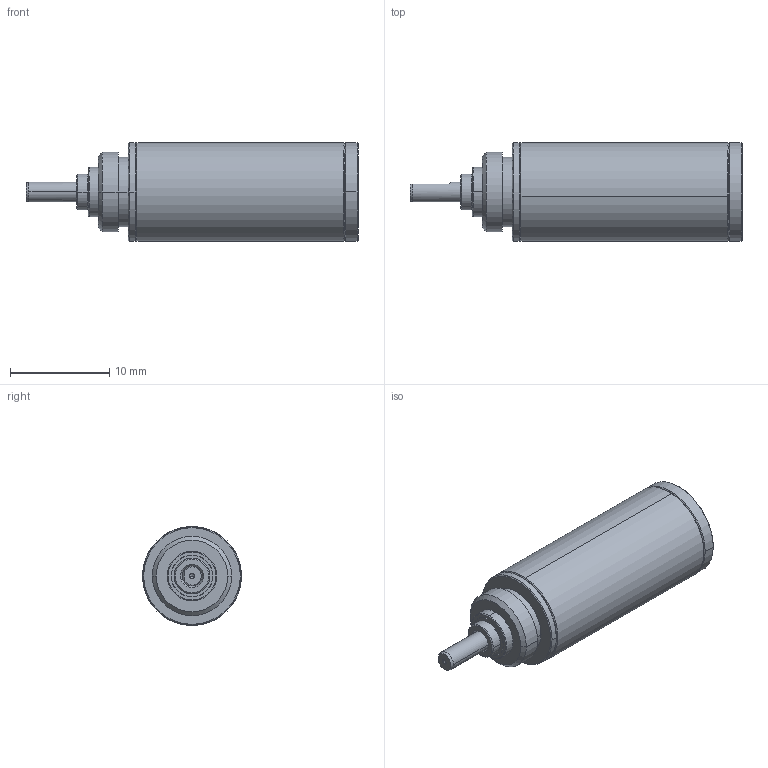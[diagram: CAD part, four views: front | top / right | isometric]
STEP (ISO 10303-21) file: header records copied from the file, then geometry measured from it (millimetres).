
FILE_DESCRIPTION((''),'2;1');
FILE_NAME('218419_GP10A_0_15NM_5ST_KL','2017-01-11T',('mmagpetk'),(''),'CREO PARAMETRIC BY PTC INC, 2016050','CREO PARAMETRIC BY PTC INC, 2016050','');
FILE_SCHEMA(('CONFIG_CONTROL_DESIGN'));
Length unit declared in the file: millimetre
Products named in the file (1): 218419_GP10A_0_15NM_5ST_KL
Bounding box: 33.5 x 9.96 x 9.96 mm (x, y, z)
Volume: 1977.9 mm3; surface area: 1061.8 mm2
Topology: 1 solids, 1 shells, 63 faces, 143 edges, 91 vertices
Faces by surface type: cone 25, cylinder 22, plane 14, torus 2
Entity records: 2516 total; most frequent: DIRECTION 350, CARTESIAN_POINT 310, ORIENTED_EDGE 282, PRESENTATION_STYLE_ASSIGNMENT 157, AXIS2_PLACEMENT_3D 150, STYLED_ITEM 142, CURVE_STYLE 141, EDGE_CURVE 141
